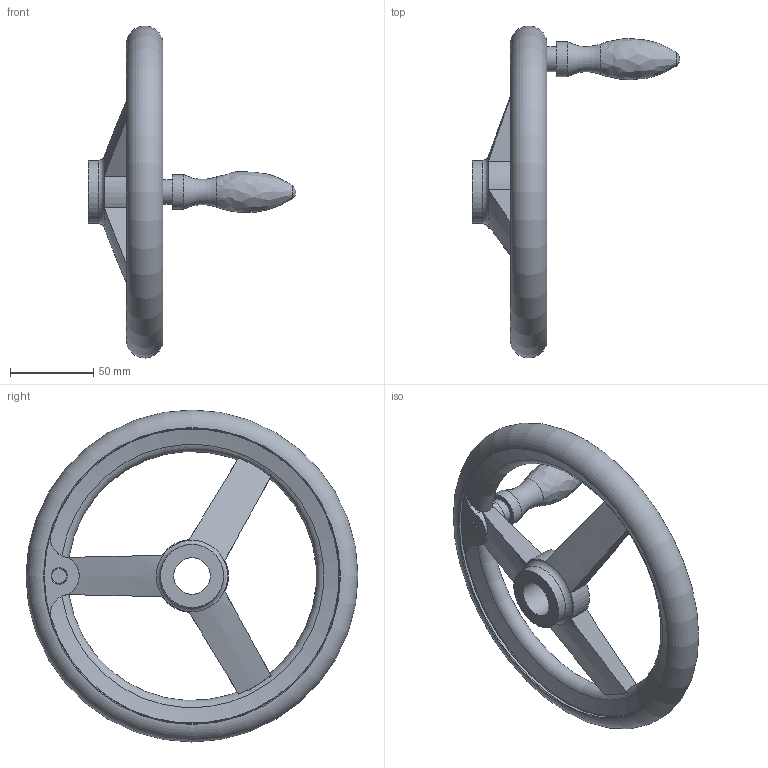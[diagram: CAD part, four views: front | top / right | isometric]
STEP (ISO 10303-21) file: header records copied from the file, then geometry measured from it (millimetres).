
FILE_DESCRIPTION( ( 'STEP AP203' ), '1' );
FILE_NAME( 'C:/Temp/Ganter_Step_05_03_2020/data/1_3/din_950/din_950_b/din_950_b_d/Handwheel DIN 950-AL-200-B22-D.stp', '2020-03-05T10:29:48', ( 'License CC BY-ND 4.0' ), ( 'CADENAS' ), ' ', 'PARTsolutions', ' ' );
FILE_SCHEMA( ( 'CONFIG_CONTROL_DESIGN' ) );
Length unit declared in the file: millimetre
Products named in the file (1): _Handwheel DIN 950-AL-200-B22-D
Bounding box: 125 x 199.99 x 199.99 mm (x, y, z)
Volume: 297439.6 mm3; surface area: 64112.7 mm2
Topology: 1 solids, 1 shells, 51 faces, 140 edges, 89 vertices
Faces by surface type: cylinder 16, torus 15, plane 12, cone 6, bspline 1, sphere 1
Full cylindrical faces by diameter (mm): 15 x1, 21 x1, 22 x1, 38 x2, 178 x2
Entity records: 1954 total; most frequent: CARTESIAN_POINT 774, ORIENTED_EDGE 226, DIRECTION 218, EDGE_CURVE 113, AXIS2_PLACEMENT_3D 102, VERTEX_POINT 85, EDGE_LOOP 78, FACE_OUTER_BOUND 67
